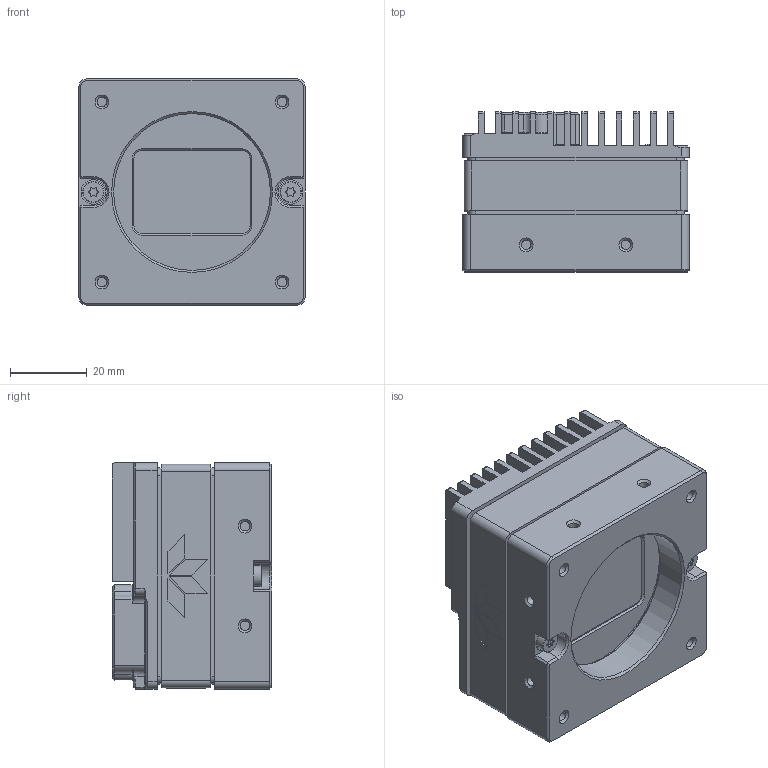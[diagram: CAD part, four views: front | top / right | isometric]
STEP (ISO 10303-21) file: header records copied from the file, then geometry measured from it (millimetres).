
FILE_DESCRIPTION(/* description */ (''),/* implementation_level */ '2;1');
FILE_NAME(/* name */ 'C:\_01_DME_Vault\_01_DME_Vault_Projects\NOVA-5G XL\03-129-20243-00 GENIE NANO 5 GigE XL CASING CUSTOMER DRAWING\03-129-20243-00 GENIE NANO 5 GigE XL CASING CUSTOMER 3D MODEL.stp',/* time_stamp */ '2020-05-15T13:59:51-04:00',/* author */ ('sduhra'),/* organization */ (''),/* preprocessor_version */ 'ST-DEVELOPER v17',/* originating_system */ 'Autodesk Inventor 2018',/* authorisation */ '');
FILE_SCHEMA (('AUTOMOTIVE_DESIGN { 1 0 10303 214 3 1 1 }'));
Products named in the file (1): 03-129-20243-00 GENIE NANO 5 GigE XL CASING CUSTOMER 3D MODEL
Bounding box: 59 x 41.67 x 59 mm (x, y, z)
Volume: 106487.9 mm3; surface area: 30356 mm2
Topology: 2 solids, 5 shells, 2438 faces, 6348 edges, 4046 vertices
Faces by surface type: plane 1626, cylinder 441, bspline 265, cone 69, torus 29, sphere 8
Full cylindrical faces by diameter (mm): 0.457 x10, 1.567 x4, 1.6 x1, 1.7 x1, 2.459 x13, 3 x2, 3.5 x2, 5.5 x2, 6.4 x2, 40.917 x1, 42.314 x1
Entity records: 81836 total; most frequent: CARTESIAN_POINT 20733, ORIENTED_EDGE 12686, DIRECTION 11111, EDGE_CURVE 6343, LINE 4739, VECTOR 4739, VERTEX_POINT 4046, AXIS2_PLACEMENT_3D 3186
